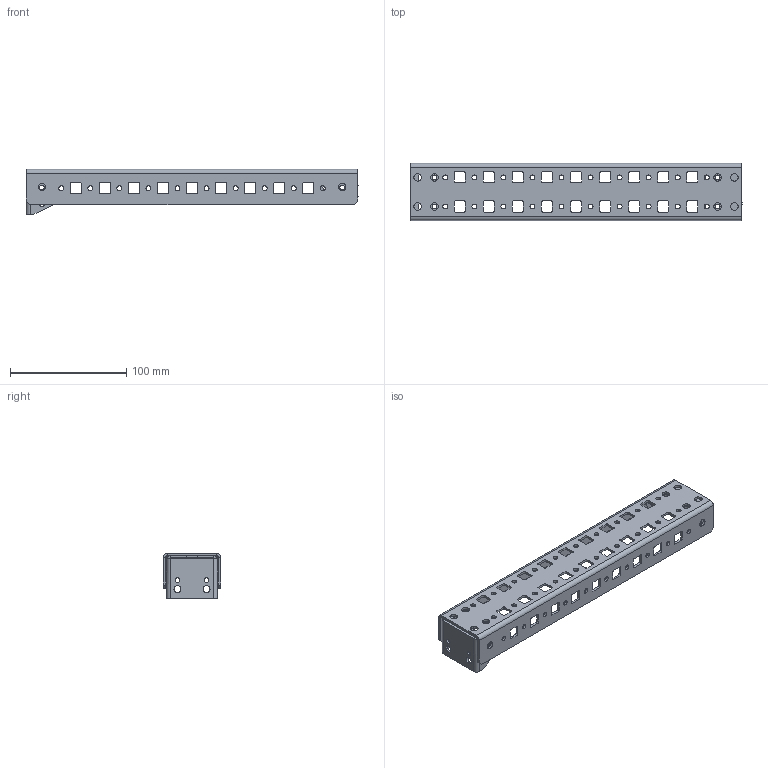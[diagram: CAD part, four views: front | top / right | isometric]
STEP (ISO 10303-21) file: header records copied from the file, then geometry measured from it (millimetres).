
FILE_DESCRIPTION(('STEP AP203'), '1');
FILE_NAME('MG 40.06 L Ðåéêà ìîíòàæíàÿ v2', '2021-05-20T08:46:58', ('UNSPECIFIED'), ('UNSPECIFIED'), 'ASCON STEP Converter 1.3', 'ASCON Math Kernel', '');
FILE_SCHEMA(('CONFIG_CONTROL_DESIGN'));
Length unit declared in the file: millimetre
Products named in the file (3): MG 40.06 L 01.001 Ðåéêà ìîíòàæíàÿ v2; MG 06 L 01.002 Êðîíøòåéí ðåéêè ìîíòàæíîé v2
Assembly tree (3 placements, depth 2):
  (unnamed)
    MG 40.06 L 01.001 Ðåéêà ìîíòàæíàÿ v2
    MG 06 L 01.002 Êðîíøòåéí ðåéêè ìîíòàæíîé v2  x2
Bounding box: 285.55 x 49.15 x 39 mm (x, y, z)
Volume: 64068.2 mm3; surface area: 72004.7 mm2
Topology: 3 solids, 3 shells, 486 faces, 1360 edges, 880 vertices
Faces by surface type: cylinder 252, plane 226, bspline 8
Full cylindrical faces by diameter (mm): 4.2 x64, 6 x4, 6.5 x12
Entity records: 18552 total; most frequent: CARTESIAN_POINT 3314, DIRECTION 2438, ORIENTED_EDGE 2304, EDGE_CURVE 1152, AXIS2_PLACEMENT_3D 870, VERTEX_POINT 796, EDGE_LOOP 700, LINE 698
